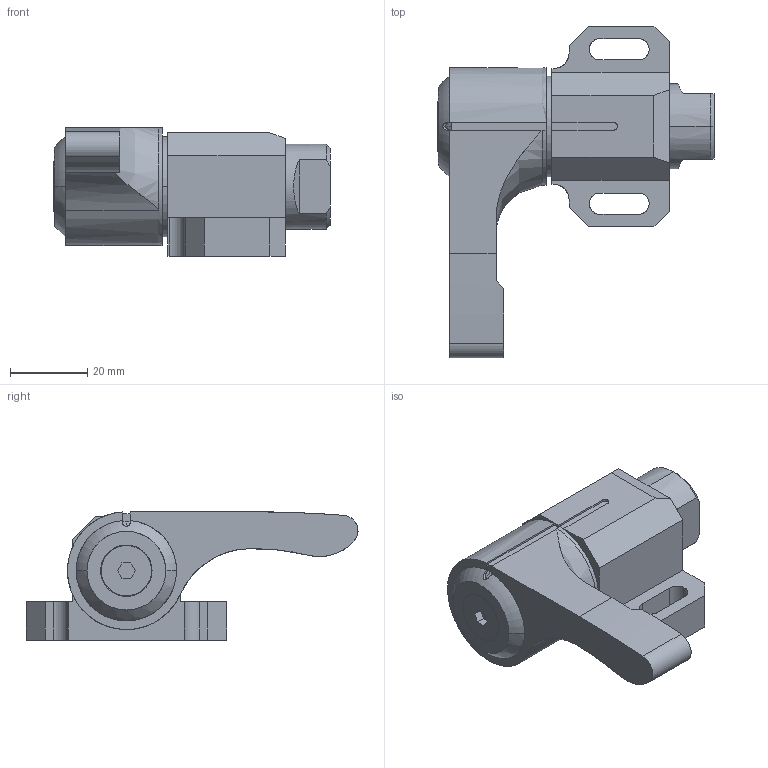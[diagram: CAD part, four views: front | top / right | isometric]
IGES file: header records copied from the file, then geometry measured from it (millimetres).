
Start section: SolidWorks IGES file using analytic representation for surfaces
Global section: file name: X:\14_SW2023(ver2023)\08_2025-01新製品(WHS)\OTC\@データ\qlpuw32-080\QLPUW32-080.igs; native system: SolidWorks 2023; preprocessor: SolidWorks 2023; author: yozawa; date: 241106.145111; units: millimetre
Bounding box: 71.55 x 86 x 33.25 mm (x, y, z)
Surface area: 26525.4 mm2 (no closed solid volume)
Topology: 0 solids, 0 shells, 134 faces, 2171 edges, 2171 vertices
Faces by surface type: bspline 68, revolution 66
